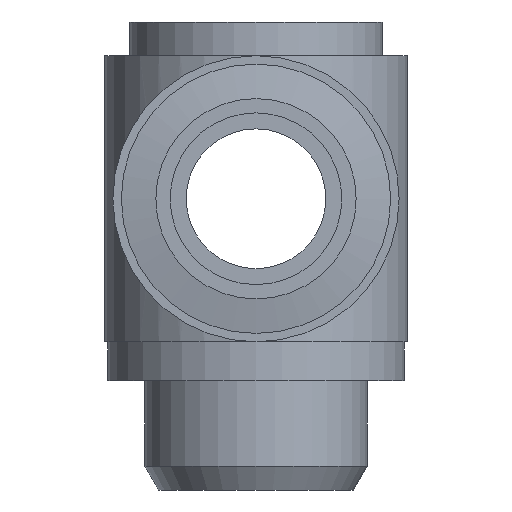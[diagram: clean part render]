
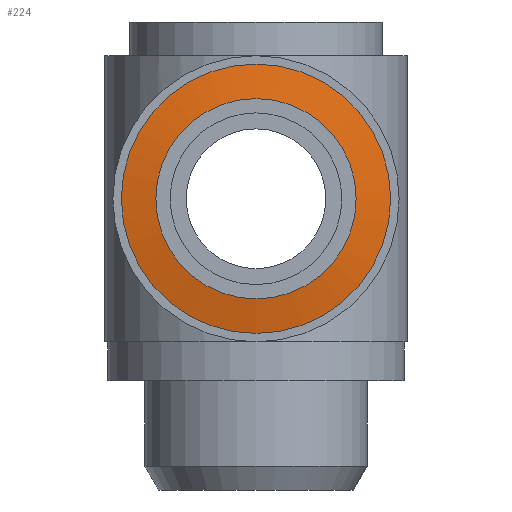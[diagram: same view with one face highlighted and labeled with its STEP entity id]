
A CAD part, front view. The second image highlights one B-rep face of the part: STEP entity #224.
In plain terms, the highlighted conical face has half-angle 80 degrees and reference radius 6.975 mm.
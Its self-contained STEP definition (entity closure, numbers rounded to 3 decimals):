
#190=CARTESIAN_POINT('',(8.,-28.039,0.));
#191=VERTEX_POINT('',#190);
#192=CARTESIAN_POINT('',(0.,-28.039,0.));
#193=DIRECTION('',(0.0,-1.0,0.0));
#194=DIRECTION('',(1.0,0.0,0.0));
#195=AXIS2_PLACEMENT_3D('',#192,#193,#194);
#196=CIRCLE('',#195,8.0);
#197=EDGE_CURVE('',#191,#191,#196,.T.);
#205=CARTESIAN_POINT('',(0.,-28.219,0.));
#206=DIRECTION('',(0.,1.0,0.));
#207=DIRECTION('',(1.0,0.0,0.0));
#208=AXIS2_PLACEMENT_3D('',#205,#206,#207);
#209=CONICAL_SURFACE('',#208,6.975,80.);
#210=CARTESIAN_POINT('',(5.95,-28.4,0.));
#211=VERTEX_POINT('',#210);
#212=CARTESIAN_POINT('',(0.,-28.4,0.));
#213=DIRECTION('',(0.0,-1.0,0.0));
#214=DIRECTION('',(1.0,0.0,0.0));
#215=AXIS2_PLACEMENT_3D('',#212,#213,#214);
#216=CIRCLE('',#215,5.95);
#217=EDGE_CURVE('',#211,#211,#216,.T.);
#218=ORIENTED_EDGE('',*,*,#217,.F.);
#219=EDGE_LOOP('',(#218));
#220=FACE_OUTER_BOUND('',#219,.T.);
#221=ORIENTED_EDGE('',*,*,#197,.T.);
#222=EDGE_LOOP('',(#221));
#223=FACE_BOUND('',#222,.T.);
#224=ADVANCED_FACE('',(#220,#223),#209,.T.);
